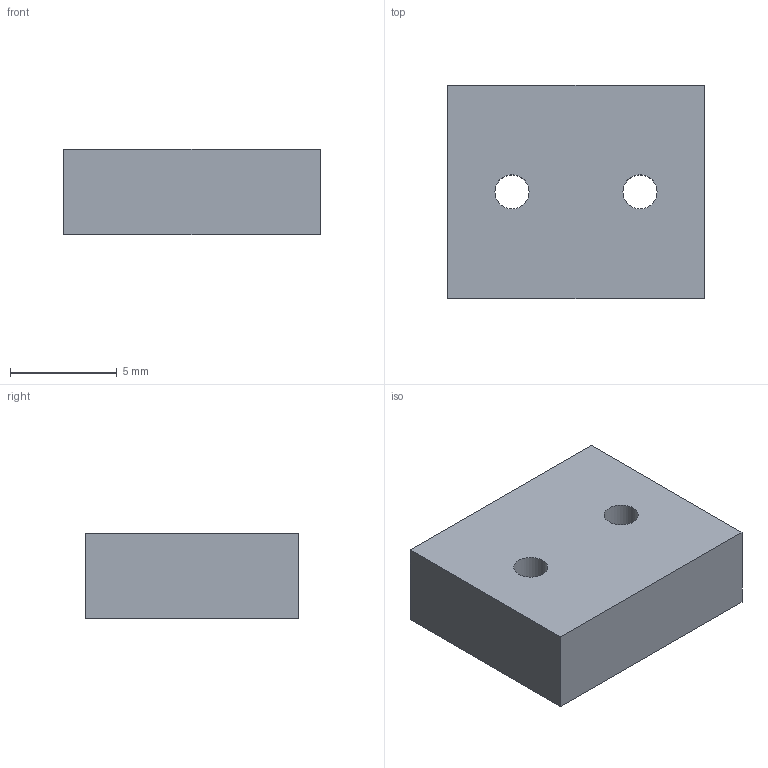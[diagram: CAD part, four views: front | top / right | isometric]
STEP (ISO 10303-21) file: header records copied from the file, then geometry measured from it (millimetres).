
FILE_DESCRIPTION(('Open CASCADE Model'),'2;1');
FILE_NAME('Open CASCADE Shape Model','2000-01-01T00:00:00',('Author'),( 'Open CASCADE'),'Open CASCADE STEP processor 7.9','Open CASCADE 7.9' ,'Unknown');
FILE_SCHEMA(('AUTOMOTIVE_DESIGN { 1 0 10303 214 1 1 1 1 }'));
Length unit declared in the file: millimetre
Products named in the file (1): Open CASCADE STEP translator 7.9 1
Bounding box: 12 x 10 x 4 mm (x, y, z)
Volume: 463.9 mm3; surface area: 448.2 mm2
Topology: 1 solids, 1 shells, 8 faces, 18 edges, 12 vertices
Faces by surface type: plane 6, cylinder 2
Full cylindrical faces by diameter (mm): 1.6 x2
Entity records: 478 total; most frequent: DIRECTION 76, CARTESIAN_POINT 75, LINE 46, VECTOR 46, ORIENTED_EDGE 36, PCURVE 36, DEFINITIONAL_REPRESENTATION 36, EDGE_CURVE 18
